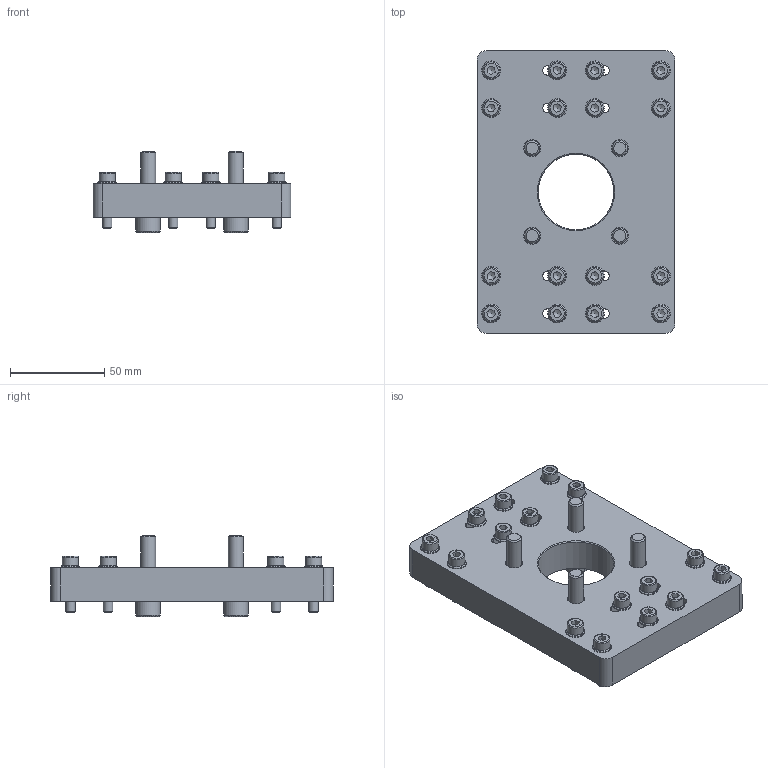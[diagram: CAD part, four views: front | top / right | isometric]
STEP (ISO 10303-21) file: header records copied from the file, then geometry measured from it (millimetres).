
FILE_DESCRIPTION(/* description */ ('Crossbar ETH050 with direct Mounting'),/* implementation_level */ '2;1');
FILE_NAME(/* name */ 'D:\InventorWorkspace2017\CAD\Projekte_EDEM\HLR\Zubehörteile\0232.035-02.stp',/* time_stamp */ '2019-02-13T11:37:34+01:00',/* author */ ('544672'),/* organization */ (''),/* preprocessor_version */ 'ST-DEVELOPER v16.5',/* originating_system */ 'Autodesk Inventor 2017',/* authorisation */ '');
FILE_SCHEMA (('AUTOMOTIVE_DESIGN { 1 0 10303 214 3 1 1 }'));
Length unit declared in the file: millimetre
Products named in the file (5): 0232.035-02; 0231.028; 135-721033; 135-728812; 135-721066
Assembly tree (37 placements, depth 2):
  0232.035-02
    0231.028
    135-721033  x16
    135-728812  x16
    135-721066  x4
Bounding box: 105 x 150 x 43 mm (x, y, z)
Volume: 268700.5 mm3; surface area: 66059.1 mm2
Topology: 37 solids, 37 shells, 437 faces, 943 edges, 600 vertices
Faces by surface type: plane 234, cylinder 105, cone 58, torus 40
Full cylindrical faces by diameter (mm): 5 x16, 5.3 x16, 5.5 x8, 8 x4, 8.5 x16, 9 x4, 10 x16, 13 x4, 40.1 x1
Entity records: 3128 total; most frequent: DIRECTION 546, CARTESIAN_POINT 512, ORIENTED_EDGE 406, AXIS2_PLACEMENT_3D 221, EDGE_CURVE 203, EDGE_LOOP 168, VERTEX_POINT 151, LINE 104
